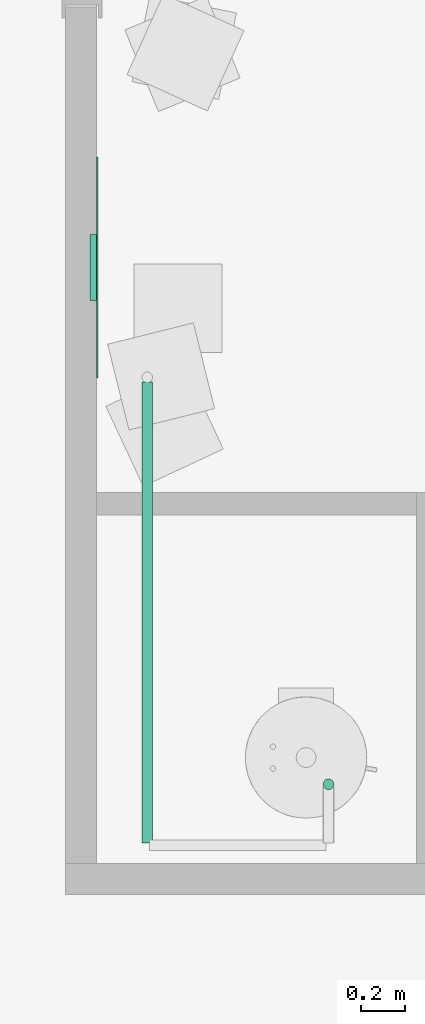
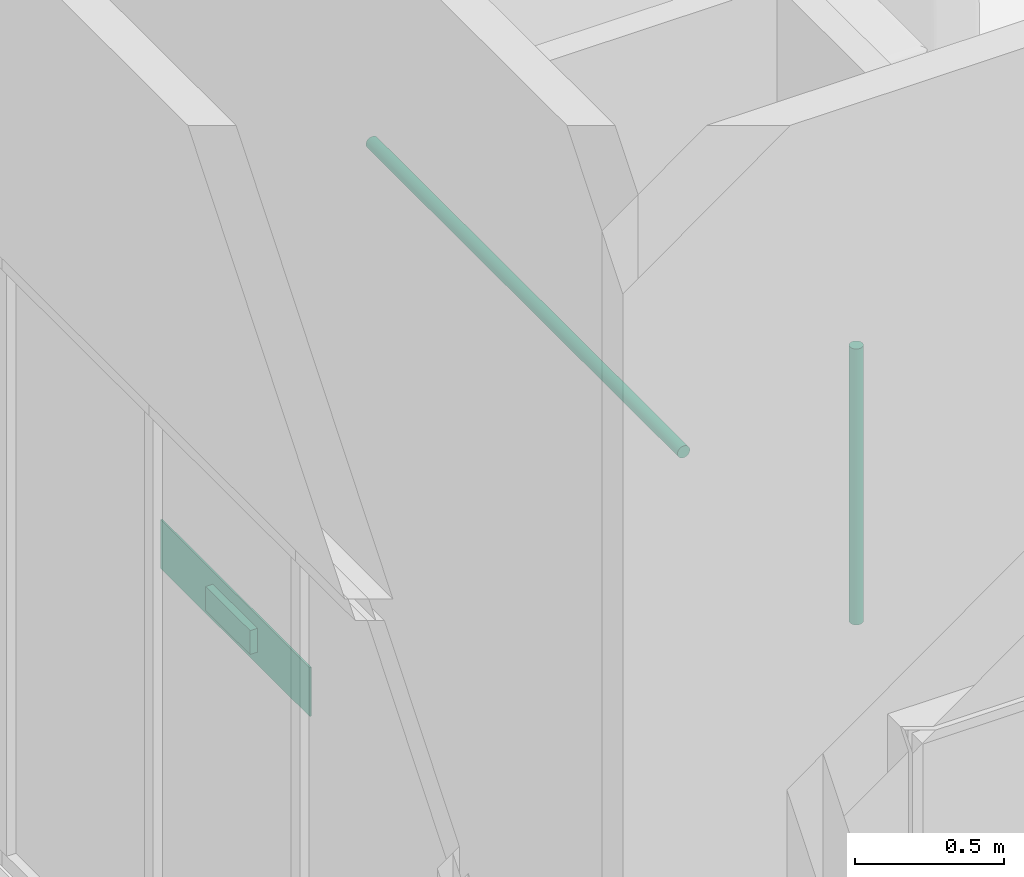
# One storey, part 25 of 69: 2 pipe segments, 1 air terminal.
"""IFC4 building model written with IfcOpenShell, lengths in centimetres."""

from ifc_helpers import new_model, entity, si_unit, converted_unit, derived_unit, direction, frame, origin, place, context, subcontext, project, spatial, arc, indexed_curve, outline, extrude, source, transform, mapped, material, constituent, constituent_set, type_object, type_shapes, element, save


model = new_model("IFC4")

# Units and contexts
model_context = context("Model", 3, precision=0.001, world=origin(), true_north=direction((6.123233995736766e-17, 1.0)))
body_context = subcontext(model_context, "Body", "Model", "MODEL_VIEW")
ifc_project = project(units=[si_unit("LENGTHUNIT", "METRE", prefix="CENTI"), si_unit("AREAUNIT", "SQUARE_METRE"), si_unit("VOLUMEUNIT", "CUBIC_METRE"), derived_unit("THERMALTRANSMITTANCEUNIT", [(si_unit("MASSUNIT", "GRAM", prefix="KILO"), 1), (si_unit("THERMODYNAMICTEMPERATUREUNIT", "KELVIN"), -1), (si_unit("TIMEUNIT", "SECOND"), -3)]), converted_unit("PLANEANGLEUNIT", "DEGREE", entity("IfcPlaneAngleMeasure", 0.017453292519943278), si_unit("PLANEANGLEUNIT", "RADIAN"), dimensions=[0, 0, 0, 0, 0, 0, 0]), derived_unit("MASSDENSITYUNIT", [(si_unit("MASSUNIT", "GRAM", prefix="KILO"), 1), (si_unit("LENGTHUNIT", "METRE"), -3)]), derived_unit("VAPORPERMEABILITYUNIT", [(si_unit("LENGTHUNIT", "METRE"), -1), (si_unit("TIMEUNIT", "SECOND"), 1)]), derived_unit("USERDEFINED", [(si_unit("MASSUNIT", "GRAM", prefix="KILO"), 1), (si_unit("TIMEUNIT", "SECOND"), -3), (si_unit("LENGTHUNIT", "METRE"), 3), (si_unit("ELECTRICCURRENTUNIT", "AMPERE"), -2)]), derived_unit("SPECIFICHEATCAPACITYUNIT", [(si_unit("THERMODYNAMICTEMPERATUREUNIT", "KELVIN"), -1), (si_unit("LENGTHUNIT", "METRE"), 2), (si_unit("TIMEUNIT", "SECOND"), -2)]), derived_unit("THERMALCONDUCTANCEUNIT", [(si_unit("MASSUNIT", "GRAM", prefix="KILO"), 1), (si_unit("THERMODYNAMICTEMPERATUREUNIT", "KELVIN"), -1), (si_unit("TIMEUNIT", "SECOND"), -3), (si_unit("LENGTHUNIT", "METRE"), 1)]), si_unit("PRESSUREUNIT", "PASCAL"), derived_unit("MODULUSOFELASTICITYUNIT", [(si_unit("MASSUNIT", "GRAM", prefix="KILO"), 1), (si_unit("LENGTHUNIT", "METRE"), -1), (si_unit("TIMEUNIT", "SECOND"), -2)]), derived_unit("THERMALEXPANSIONCOEFFICIENTUNIT", [(si_unit("THERMODYNAMICTEMPERATUREUNIT", "KELVIN"), -1)])], contexts=[model_context])

# Site, building, storey, space
site_placement = place(None, origin())
site = spatial("IfcSite", under=ifc_project, at=site_placement, Name="Default", CompositionType="ELEMENT")
building_placement = place(site_placement, origin())
building = spatial("IfcBuilding", under=site, at=building_placement, Name="IDS Escape Game Building", CompositionType="ELEMENT")
storey_placement = place(building_placement, origin())
storey = spatial("IfcBuildingStorey", under=building, at=storey_placement, Name="00_Ground Floor", CompositionType="ELEMENT", Elevation=0.0)
space_placement = place(storey_placement, origin())
space = spatial("IfcSpace", under=storey, at=space_placement, Name="22", CompositionType="ELEMENT", PredefinedType="NOTDEFINED")

# Air terminal
ifc_material_1 = material(Name="TB_LVC_referentievlak_00_gen_BERSnl", Category="BE Default")
ifc_constituent_1 = constituent(ifc_material_1, Name="TB_LVC_referentievlak_00_gen_BERSnl", Category="BE Default", fraction=0.00014157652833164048)
ifc_material_2 = material(Name="ARC_FME.h2_staal_00_gen_BERSnl", Category="h - metaal")
ifc_constituent_2 = constituent(ifc_material_2, Name="ARC_FME.h2_staal_00_gen_BERSnl", Category="h - metaal", fraction=0.9998584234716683)
ifc_constituent_set_1 = constituent_set(constituents=[ifc_constituent_1, ifc_constituent_2])
ifc_constituent_3 = constituent(ifc_material_1, Name="BE Referentievlak", Category="BE Default", fraction=0.00014157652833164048)
ifc_constituent_4 = constituent(ifc_material_2, Name="Terminals", Category="h - metaal", fraction=0.9998584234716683)
ifc_constituent_set_2 = constituent_set(constituents=[ifc_constituent_3, ifc_constituent_4])
air_terminal_type = type_object("IfcAirTerminalType", Name="TB_57_AIR_FB_aanzuigrooster - 1 rechthoekige aansluiting - calculated flow_gen_BERSnl:Air Terminal - Exhaust", PredefinedType="GRILLE", material=ifc_constituent_set_2)
shared_shape = source(origin(), body_context, "Body", "SweptSolid", [
    extrude(outline(indexed_curve([(-0.5, -2.0290176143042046e-15), (6.8507733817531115e-16, -0.5000000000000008), (0.5, 2.0290176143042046e-15), (-5.361679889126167e-16, 0.49999999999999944)], segments=[arc(1, 2, 3), arc(3, 4, 1)], self_intersect=False)), frame((0.0, 0.0, 0.0), z_axis=(1.7453292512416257e-05, 0.0, 1.0), x_axis=(0.0, 1.0, 0.0)), (0.0, 0.0, 1.0), 0.09999999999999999),
    extrude(outline(indexed_curve([(-14.900000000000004, -4.9), (14.900000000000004, -4.9), (14.900000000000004, 4.9), (-14.900000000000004, 4.9), (-14.900000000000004, -4.9)], self_intersect=False)), frame((-4.886921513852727e-05, 0.0, -2.7999999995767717)), (0.0, 0.0, 1.0), 2.7999999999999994),
    extrude(outline(indexed_curve([(-50.0, -10.0), (50.0, -10.0), (50.0, 10.0), (-50.0, 10.0), (-50.0, -10.0)], self_intersect=False)), frame((0.0, 0.0, 0.0), z_axis=(0.0, 0.0, 1.0), x_axis=(-1.0, 0.0, 0.0)), (0.0, 0.0, 1.0), 0.6999999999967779),
])
type_shapes(air_terminal_type, [shared_shape])
air_terminal_placement = place(space_placement, frame((7.0, 2197.0, 24.0), z_axis=(1.0, 0.0, 0.0), x_axis=(0.0, 1.0, 0.0)))
element("IfcAirTerminal", 1, at=air_terminal_placement, inside=space, type_object=air_terminal_type, material=ifc_constituent_set_1, Name="TB_57_AIR_FB_aanzuigrooster - 1 rechthoekige aansluiting - calculated flow_gen_BERSnl:Air Terminal - Exhaust", ObjectType="TB_57_AIR_FB_aanzuigrooster - 1 rechthoekige aansluiting - calculated flow_gen_BERSnl:Air Terminal - Exhaust", PredefinedType="GRILLE", context=body_context, shape_type="MappedRepresentation", body=[
    mapped(shared_shape, transform((0.0, 0.0, 0.0), scale=1.0)),
])

# Pipe segments
pipe_segment_type = type_object("IfcPipeSegmentType", Name="Pipe Types:Piping Aluminum", PredefinedType="NOTDEFINED")
pipe_segment_1_placement = place(storey_placement, origin())
element("IfcPipeSegment", 2, at=pipe_segment_1_placement, inside=storey, type_object=pipe_segment_type, Name="Pipe Types:Piping Aluminum", ObjectType="Pipe Types:Piping Aluminum", PredefinedType="NOTDEFINED", context=body_context, shape_type="SweptSolid", body=[
    extrude(outline(indexed_curve([(2.412999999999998, 0.0), (1.7062486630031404, 1.7062486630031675), (-1.3535839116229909e-14, 2.412999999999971), (-1.7062486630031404, 1.7062486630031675), (-2.412999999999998, 0.0), (-1.706248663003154, -1.7062486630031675), (-1.3535839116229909e-14, -2.412999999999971), (1.7062486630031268, -1.7062486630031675)], segments=[arc(1, 2, 3), arc(3, 4, 5), arc(5, 6, 7), arc(7, 8, 1)], self_intersect=False)), frame((112.15000000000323, 1962.9000000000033, 128.0), z_axis=(0.0, 0.0, 1.0), x_axis=(-1.0, 0.0, 0.0)), (0.0, 0.0, 1.0), 112.90000000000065),
])
pipe_segment_2_placement = place(storey_placement, origin())
element("IfcPipeSegment", 3, at=pipe_segment_2_placement, inside=storey, type_object=pipe_segment_type, Name="Pipe Types:Piping Aluminum", ObjectType="Pipe Types:Piping Aluminum", PredefinedType="NOTDEFINED", context=body_context, shape_type="SweptSolid", body=[
    extrude(outline(indexed_curve([(2.4130000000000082, 0.0), (1.7062486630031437, 1.7062486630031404), (-3.383959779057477e-15, 2.412999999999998), (-1.7062486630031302, 1.7062486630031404), (-2.412999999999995, 2.7071678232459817e-14), (-1.7062486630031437, -1.7062486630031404), (-6.767919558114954e-15, -2.412999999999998), (1.706248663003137, -1.7062486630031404)], segments=[arc(1, 2, 3), arc(3, 4, 5), arc(5, 6, 7), arc(7, 8, 1)], self_intersect=False)), frame((30.046716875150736, 1936.3648279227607, 242.0), z_axis=(0.0, 1.0, 0.0), x_axis=(1.0, 0.0, 0.0)), (0.0, 0.0, 1.0), 208.80000000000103),
])

save(model, "model.ifc")
